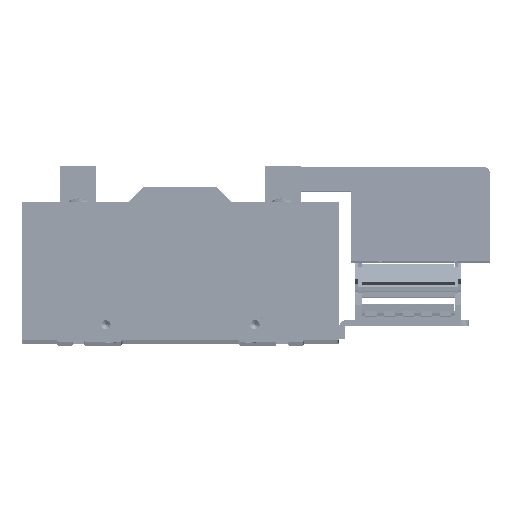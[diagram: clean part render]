
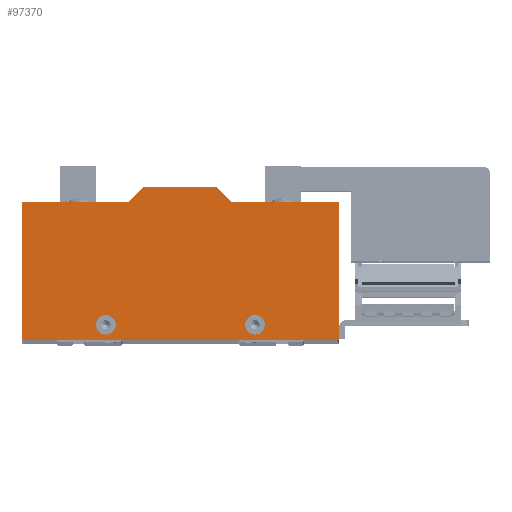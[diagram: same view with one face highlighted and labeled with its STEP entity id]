
A CAD part, top view. The second image highlights one B-rep face of the part: STEP entity #97370.
In plain terms, the highlighted planar face has unit normal (0, 0, 1).
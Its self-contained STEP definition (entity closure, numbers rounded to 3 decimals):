
#30892 = CARTESIAN_POINT ( 'NONE',  ( -45.25, -29., 9.525 ) ) ;
#30911 = DIRECTION ( 'NONE',  ( 1., 0., 0. ) ) ;
#30912 = DIRECTION ( 'NONE',  ( 0., 0., 1. ) ) ;
#30913 = CARTESIAN_POINT ( 'NONE',  ( -40., -29., 9.525 ) ) ;
#30914 = AXIS2_PLACEMENT_3D ( 'NONE', #30913, #30912, #30911 ) ;
#30915 = CIRCLE ( 'NONE', #30914, 5.25 ) ;
#30968 = CARTESIAN_POINT ( 'NONE',  ( -34.75, -29., 9.525 ) ) ;
#31043 = DIRECTION ( 'NONE',  ( 1., 0., 0. ) ) ;
#31044 = VECTOR ( 'NONE', #31043, 1000. ) ;
#31045 = CARTESIAN_POINT ( 'NONE',  ( -85., -37., 9.525 ) ) ;
#31046 = LINE ( 'NONE', #31045, #31044 ) ;
#31210 = CARTESIAN_POINT ( 'NONE',  ( -85., -37., 9.525 ) ) ;
#31258 = CARTESIAN_POINT ( 'NONE',  ( -85., 37., 9.525 ) ) ;
#31265 = DIRECTION ( 'NONE',  ( 0., -1., 0. ) ) ;
#31266 = VECTOR ( 'NONE', #31265, 1000. ) ;
#31267 = CARTESIAN_POINT ( 'NONE',  ( -85., 37., 9.525 ) ) ;
#31268 = LINE ( 'NONE', #31267, #31266 ) ;
#31435 = DIRECTION ( 'NONE',  ( 1., 0., 0. ) ) ;
#31436 = DIRECTION ( 'NONE',  ( 0., 0., 1. ) ) ;
#31437 = CARTESIAN_POINT ( 'NONE',  ( 40., -29., 9.525 ) ) ;
#31438 = AXIS2_PLACEMENT_3D ( 'NONE', #31437, #31436, #31435 ) ;
#31439 = CIRCLE ( 'NONE', #31438, 5.25 ) ;
#31440 = CARTESIAN_POINT ( 'NONE',  ( 34.75, -29., 9.525 ) ) ;
#31487 = CARTESIAN_POINT ( 'NONE',  ( 45.25, -29., 9.525 ) ) ;
#31650 = CARTESIAN_POINT ( 'NONE',  ( 85., -37., 9.525 ) ) ;
#46168 = CARTESIAN_POINT ( 'NONE',  ( -27.5, 37., 9.525 ) ) ;
#46372 = DIRECTION ( 'NONE',  ( -0.707, -0.707, 0. ) ) ;
#46373 = VECTOR ( 'NONE', #46372, 1000. ) ;
#46374 = CARTESIAN_POINT ( 'NONE',  ( -27.5, 37., 9.525 ) ) ;
#46375 = LINE ( 'NONE', #46374, #46373 ) ;
#46438 = CARTESIAN_POINT ( 'NONE',  ( 85., 37., 9.525 ) ) ;
#46443 = DIRECTION ( 'NONE',  ( 1., 0., 0. ) ) ;
#46444 = DIRECTION ( 'NONE',  ( 0., 0., 1. ) ) ;
#46445 = AXIS2_PLACEMENT_3D ( 'NONE', #46451, #46444, #46443 ) ;
#46446 = CIRCLE ( 'NONE', #46445, 5.25 ) ;
#46451 = CARTESIAN_POINT ( 'NONE',  ( -40., -29., 9.525 ) ) ;
#46465 = DIRECTION ( 'NONE',  ( 1., 0., 0. ) ) ;
#46466 = DIRECTION ( 'NONE',  ( 0., 0., 1. ) ) ;
#46467 = CARTESIAN_POINT ( 'NONE',  ( -85., 37., 9.525 ) ) ;
#46485 = DIRECTION ( 'NONE',  ( 0., 1., 0. ) ) ;
#46486 = VECTOR ( 'NONE', #46485, 1000. ) ;
#46487 = CARTESIAN_POINT ( 'NONE',  ( 85., 37., 9.525 ) ) ;
#46488 = LINE ( 'NONE', #46487, #46486 ) ;
#46496 = DIRECTION ( 'NONE',  ( 1., 0., 0. ) ) ;
#46497 = DIRECTION ( 'NONE',  ( 0., 0., 1. ) ) ;
#46498 = CARTESIAN_POINT ( 'NONE',  ( 40., -29., 9.525 ) ) ;
#46499 = AXIS2_PLACEMENT_3D ( 'NONE', #46498, #46497, #46496 ) ;
#46500 = CIRCLE ( 'NONE', #46499, 5.25 ) ;
#46507 = FACE_BOUND ( 'NONE', #97405, .T. ) ;
#46508 = FACE_BOUND ( 'NONE', #97377, .T. ) ;
#46509 = AXIS2_PLACEMENT_3D ( 'NONE', #46467, #46466, #46465 ) ;
#46510 = FACE_OUTER_BOUND ( 'NONE', #97412, .T. ) ;
#46511 = DIRECTION ( 'NONE',  ( -1., 0., 0. ) ) ;
#46512 = VECTOR ( 'NONE', #46511, 1000. ) ;
#46513 = CARTESIAN_POINT ( 'NONE',  ( -85., 37., 9.525 ) ) ;
#46514 = PLANE ( 'NONE',  #46509 ) ;
#46515 = LINE ( 'NONE', #46513, #46512 ) ;
#66262 = CARTESIAN_POINT ( 'NONE',  ( -19.5, 45., 9.525 ) ) ;
#66434 = DIRECTION ( 'NONE',  ( -0.707, 0.707, 0. ) ) ;
#66435 = VECTOR ( 'NONE', #66434, 1000. ) ;
#66436 = CARTESIAN_POINT ( 'NONE',  ( 19.5, 45., 9.525 ) ) ;
#66437 = LINE ( 'NONE', #66436, #66435 ) ;
#66451 = CARTESIAN_POINT ( 'NONE',  ( 19.5, 45., 9.525 ) ) ;
#66627 = DIRECTION ( 'NONE',  ( -1., 0., 0. ) ) ;
#66628 = VECTOR ( 'NONE', #66627, 1000. ) ;
#66629 = CARTESIAN_POINT ( 'NONE',  ( -19.5, 45., 9.525 ) ) ;
#66630 = LINE ( 'NONE', #66629, #66628 ) ;
#66654 = DIRECTION ( 'NONE',  ( -1., 0., 0. ) ) ;
#66655 = VECTOR ( 'NONE', #66654, 1000. ) ;
#66656 = CARTESIAN_POINT ( 'NONE',  ( 27.5, 37., 9.525 ) ) ;
#66657 = LINE ( 'NONE', #66656, #66655 ) ;
#66660 = CARTESIAN_POINT ( 'NONE',  ( 27.5, 37., 9.525 ) ) ;
#80180 = VERTEX_POINT ( 'NONE', #66262 ) ;
#80464 = VERTEX_POINT ( 'NONE', #66660 ) ;
#80468 = EDGE_CURVE ( 'NONE', #97385, #80464, #66657, .T. ) ;
#80488 = EDGE_CURVE ( 'NONE', #80539, #80180, #66630, .T. ) ;
#80539 = VERTEX_POINT ( 'NONE', #66451 ) ;
#80553 = EDGE_CURVE ( 'NONE', #80464, #80539, #66437, .T. ) ;
#97296 = VERTEX_POINT ( 'NONE', #46168 ) ;
#97327 = EDGE_CURVE ( 'NONE', #80180, #97296, #46375, .T. ) ;
#97366 = EDGE_CURVE ( 'NONE', #97296, #122780, #46515, .T. ) ;
#97370 = ADVANCED_FACE ( 'NONE', ( #46508, #46507, #46510 ), #46514, .T. ) ;
#97377 = EDGE_LOOP ( 'NONE', ( #97380, #97388 ) ) ;
#97380 = ORIENTED_EDGE ( 'NONE', *, *, #97382, .F. ) ;
#97382 = EDGE_CURVE ( 'NONE', #122625, #122596, #46446, .T. ) ;
#97385 = VERTEX_POINT ( 'NONE', #46438 ) ;
#97388 = ORIENTED_EDGE ( 'NONE', *, *, #122623, .F. ) ;
#97405 = EDGE_LOOP ( 'NONE', ( #97407, #97411 ) ) ;
#97407 = ORIENTED_EDGE ( 'NONE', *, *, #97409, .F. ) ;
#97409 = EDGE_CURVE ( 'NONE', #122861, #122848, #46500, .T. ) ;
#97411 = ORIENTED_EDGE ( 'NONE', *, *, #122849, .F. ) ;
#97412 = EDGE_LOOP ( 'NONE', ( #97413, #97424, #97426, #97429, #97448, #97452, #97455, #122337 ) ) ;
#97413 = ORIENTED_EDGE ( 'NONE', *, *, #122777, .T. ) ;
#97419 = EDGE_CURVE ( 'NONE', #122959, #97385, #46488, .T. ) ;
#97424 = ORIENTED_EDGE ( 'NONE', *, *, #122688, .T. ) ;
#97426 = ORIENTED_EDGE ( 'NONE', *, *, #97419, .T. ) ;
#97429 = ORIENTED_EDGE ( 'NONE', *, *, #80468, .T. ) ;
#97448 = ORIENTED_EDGE ( 'NONE', *, *, #80553, .T. ) ;
#97452 = ORIENTED_EDGE ( 'NONE', *, *, #80488, .T. ) ;
#97455 = ORIENTED_EDGE ( 'NONE', *, *, #97327, .T. ) ;
#122337 = ORIENTED_EDGE ( 'NONE', *, *, #97366, .T. ) ;
#122596 = VERTEX_POINT ( 'NONE', #30892 ) ;
#122623 = EDGE_CURVE ( 'NONE', #122596, #122625, #30915, .T. ) ;
#122625 = VERTEX_POINT ( 'NONE', #30968 ) ;
#122688 = EDGE_CURVE ( 'NONE', #122771, #122959, #31046, .T. ) ;
#122771 = VERTEX_POINT ( 'NONE', #31210 ) ;
#122777 = EDGE_CURVE ( 'NONE', #122780, #122771, #31268, .T. ) ;
#122780 = VERTEX_POINT ( 'NONE', #31258 ) ;
#122848 = VERTEX_POINT ( 'NONE', #31440 ) ;
#122849 = EDGE_CURVE ( 'NONE', #122848, #122861, #31439, .T. ) ;
#122861 = VERTEX_POINT ( 'NONE', #31487 ) ;
#122959 = VERTEX_POINT ( 'NONE', #31650 ) ;
